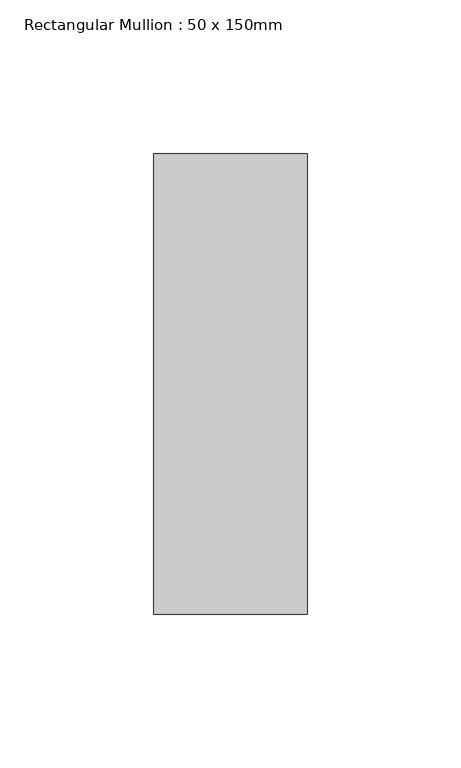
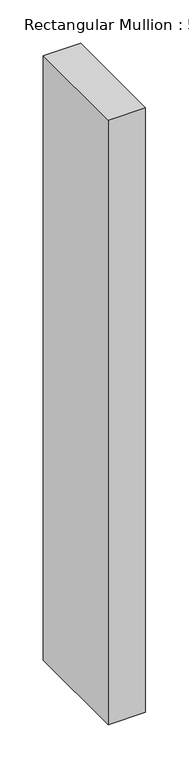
"""IFC4 building model written with IfcOpenShell, lengths in millimetres: member geometry, Rectangular Mullion : 50 x 150mm."""

from ifc_helpers import new_model, si_unit, frame, origin, place, context, project, spatial, polyline, outline, extrude, source, transform, mapped, element, save


def rectangular_mullion_50_x_150mm_5d0e247a(model_context):
    return source(origin(), model_context, "Body", "SweptSolid", [
        extrude(outline(polyline([(0.0, 75.0), (0.0, -75.0), (-50.0, -75.0), (-50.0, 75.0), (0.0, 75.0)])), frame((0.0, 0.0, -854.1575), z_axis=(0.0, 0.0, 1.0), x_axis=(1.0, 0.0, 0.0)), (0.0, 0.0, 1.0), 854.1575),
    ])


if __name__ == "__main__":
    model = new_model("IFC4")
    model_context = context("Model", 3, world=origin())
    ifc_project = project(units=[si_unit("LENGTHUNIT", "METRE", prefix="MILLI")], contexts=[model_context])
    site = spatial("IfcSite", under=ifc_project)
    building = spatial("IfcBuilding", under=site)
    placement = place(None, origin())
    rectangular_mullion_50_x_150mm_shape = rectangular_mullion_50_x_150mm_5d0e247a(model_context)
    element("IfcMember", 1, ObjectType="Rectangular Mullion : 50 x 150mm", at=placement, inside=building, context=model_context, shape_type="MappedRepresentation", body=[
        mapped(rectangular_mullion_50_x_150mm_shape, transform((0.0, 0.0, 0.0), x_axis=(1.0, 0.0, 0.0), y_axis=(0.0, 1.0, 0.0), z_axis=(0.0, 0.0, 1.0))),
    ])
    save(model, "model.ifc")
